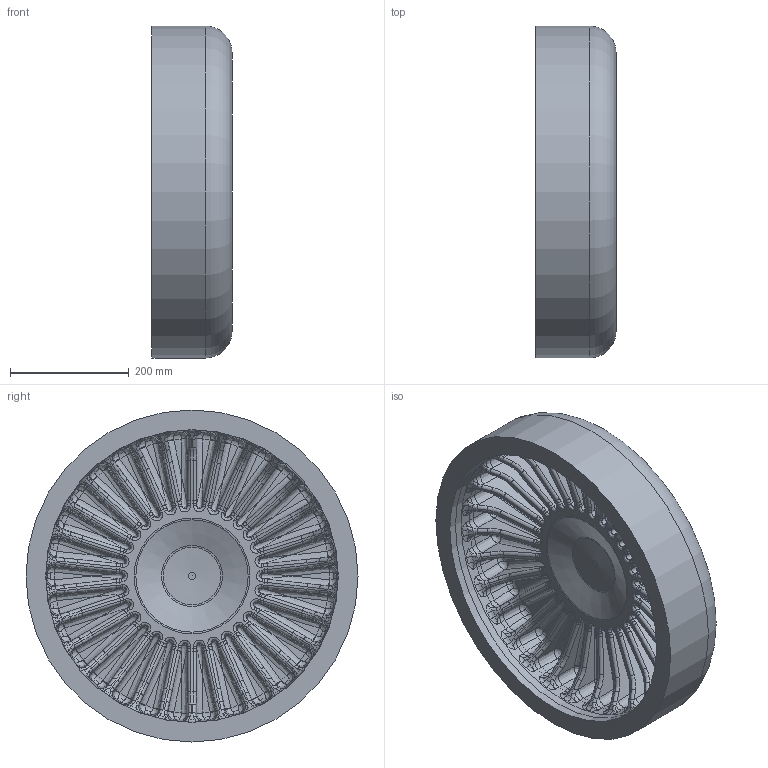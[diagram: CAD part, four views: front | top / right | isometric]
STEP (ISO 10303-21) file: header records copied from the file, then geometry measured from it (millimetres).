
FILE_DESCRIPTION(/* description */ ('Unknown'),/* implementation_level */ '2;1');
FILE_NAME(/* name */ 'CAP560B',/* time_stamp */ '2022-05-16T10:21:13+02:00',/* author */ ('Unknown'),/* organization */ ('Unknown'),/* preprocessor_version */ 'ST-DEVELOPER v18.1',/* originating_system */ 'Solid Edge',/* authorisation */ 'Unknown');
FILE_SCHEMA (('AUTOMOTIVE_DESIGN {1 0 10303 214 3 1 1}'));
Products named in the file (1): CAP560B
Bounding box: 135 x 560 x 560 mm (x, y, z)
Volume: 16242210.7 mm3; surface area: 1003801.9 mm2
Topology: 1 solids, 1 shells, 1303 faces, 3054 edges, 1664 vertices
Faces by surface type: bspline 780, cylinder 272, plane 153, torus 64, cone 33, sphere 1
Full cylindrical faces by diameter (mm): 493.6 x1, 560 x1
Entity records: 56582 total; most frequent: CARTESIAN_POINT 32914, ORIENTED_EDGE 5902, DIRECTION 3710, EDGE_CURVE 2951, VERTEX_POINT 1661, AXIS2_PLACEMENT_3D 1585, EDGE_LOOP 1314, FACE_BOUND 1314
